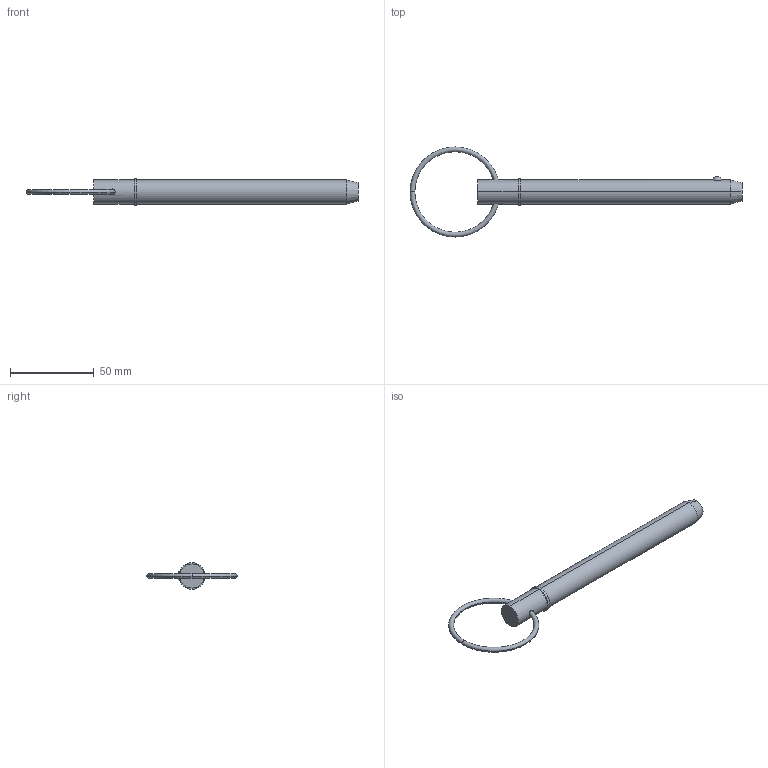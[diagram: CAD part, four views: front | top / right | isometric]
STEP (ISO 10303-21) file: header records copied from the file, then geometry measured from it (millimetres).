
FILE_DESCRIPTION (( 'STEP AP203' ), '1' );
FILE_NAME ('33014.W5645.step', '2024-11-04T08:32:28', ( '' ), ( '' ), 'SwSTEP 2.0', 'SolidWorks 2019', '' );
FILE_SCHEMA (( 'CONFIG_CONTROL_DESIGN' ));
Length unit declared in the file: millimetre
Products named in the file (3): Part1_33014.W5645; 33014.W5645; Part2_33014.W5645
Assembly tree (2 placements, depth 2):
  33014.W5645
    Part1_33014.W5645
    Part2_33014.W5645
Bounding box: 197.66 x 53.66 x 15.72 mm (x, y, z)
Volume: 25964.3 mm3; surface area: 8952.6 mm2
Topology: 2 solids, 2 shells, 22 faces, 43 edges, 26 vertices
Faces by surface type: torus 8, cylinder 6, plane 4, sphere 2, cone 2
Entity records: 1039 total; most frequent: CARTESIAN_POINT 262, DIRECTION 120, ORIENTED_EDGE 86, AXIS2_PLACEMENT_3D 56, EDGE_CURVE 43, CIRCLE 29, EDGE_LOOP 27, VERTEX_POINT 26
